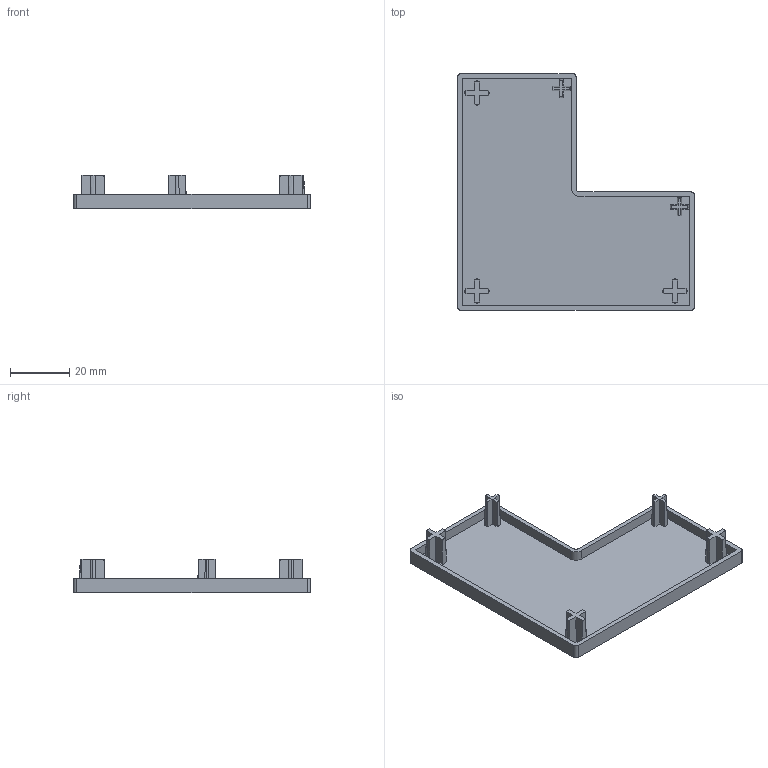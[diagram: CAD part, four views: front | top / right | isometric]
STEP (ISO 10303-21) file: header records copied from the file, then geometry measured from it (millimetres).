
FILE_DESCRIPTION (( 'STEP AP203' ), '1' );
FILE_NAME ('EC8840-8.STEP', '2024-02-19T05:55:27', ( '' ), ( '' ), 'SwSTEP 2.0', 'SolidWorks 2022', '' );
FILE_SCHEMA (( 'CONFIG_CONTROL_DESIGN' ));
Length unit declared in the file: millimetre
Products named in the file (1): EC8840-8
Bounding box: 80 x 80 x 11.5 mm (x, y, z)
Volume: 9828.4 mm3; surface area: 13608.8 mm2
Topology: 1 solids, 1 shells, 92 faces, 252 edges, 168 vertices
Faces by surface type: plane 60, cone 25, cylinder 7
Entity records: 3157 total; most frequent: CARTESIAN_POINT 753, ORIENTED_EDGE 504, DIRECTION 462, EDGE_CURVE 252, VERTEX_POINT 168, AXIS2_PLACEMENT_3D 157, LINE 148, VECTOR 148
